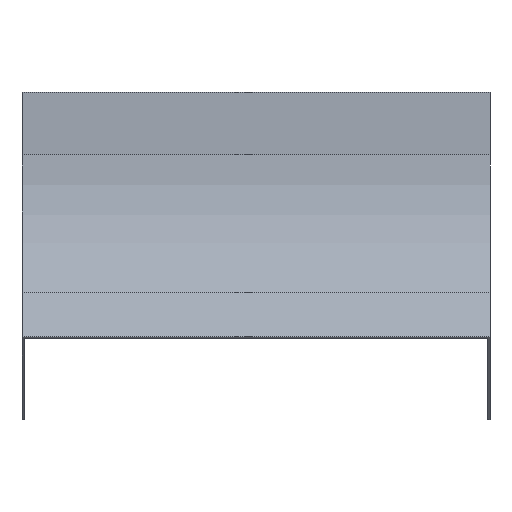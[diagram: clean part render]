
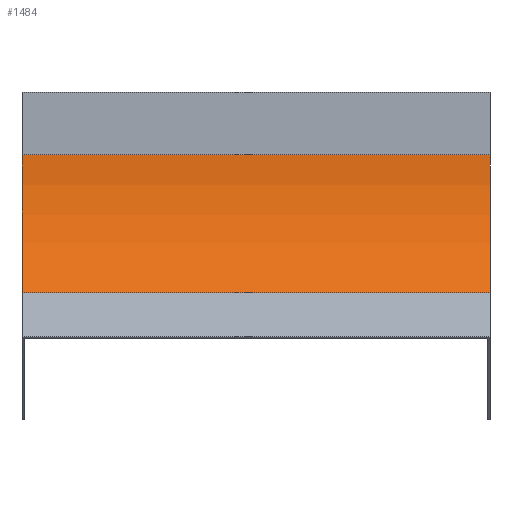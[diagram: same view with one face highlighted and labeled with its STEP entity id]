
A CAD part, front view. The second image highlights one B-rep face of the part: STEP entity #1484.
In plain terms, the highlighted cylindrical face has radius 125 mm (diameter 250 mm), a partial arc.
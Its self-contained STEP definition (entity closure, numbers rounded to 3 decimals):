
#35 = EDGE_CURVE ( 'NONE', #552, #1294, #234, .T. ) ;
#170 = AXIS2_PLACEMENT_3D ( 'NONE', #526, #1055, #604 ) ;
#196 = CIRCLE ( 'NONE', #1463, 125. ) ;
#209 = CARTESIAN_POINT ( 'NONE',  ( -150., 0., -40. ) ) ;
#213 = ORIENTED_EDGE ( 'NONE', *, *, #35, .F. ) ;
#231 = CYLINDRICAL_SURFACE ( 'NONE', #170, 125. ) ;
#234 = LINE ( 'NONE', #643, #1529 ) ;
#236 = ORIENTED_EDGE ( 'NONE', *, *, #1429, .F. ) ;
#245 = ORIENTED_EDGE ( 'NONE', *, *, #1259, .T. ) ;
#265 = DIRECTION ( 'NONE',  ( -1., 0., 0. ) ) ;
#375 = LINE ( 'NONE', #636, #1678 ) ;
#416 = CIRCLE ( 'NONE', #1434, 125. ) ;
#526 = CARTESIAN_POINT ( 'NONE',  ( 150., -125., -40. ) ) ;
#552 = VERTEX_POINT ( 'NONE', #1104 ) ;
#604 = DIRECTION ( 'NONE',  ( 0., 0., 1. ) ) ;
#620 = VERTEX_POINT ( 'NONE', #209 ) ;
#636 = CARTESIAN_POINT ( 'NONE',  ( 150., 0., -40. ) ) ;
#643 = CARTESIAN_POINT ( 'NONE',  ( 150., -36.612, -128.388 ) ) ;
#670 = CARTESIAN_POINT ( 'NONE',  ( -150., -36.612, -128.388 ) ) ;
#697 = ORIENTED_EDGE ( 'NONE', *, *, #1538, .T. ) ;
#712 = DIRECTION ( 'NONE',  ( 0., 0., 1. ) ) ;
#761 = CARTESIAN_POINT ( 'NONE',  ( -150., -125., -40. ) ) ;
#836 = CARTESIAN_POINT ( 'NONE',  ( 150., 0., -40. ) ) ;
#924 = DIRECTION ( 'NONE',  ( -1., 0., 0. ) ) ;
#947 = VERTEX_POINT ( 'NONE', #836 ) ;
#1055 = DIRECTION ( 'NONE',  ( -1., 0., 0. ) ) ;
#1098 = CARTESIAN_POINT ( 'NONE',  ( 150., -125., -40. ) ) ;
#1104 = CARTESIAN_POINT ( 'NONE',  ( 150., -36.612, -128.388 ) ) ;
#1259 = EDGE_CURVE ( 'NONE', #947, #620, #375, .T. ) ;
#1294 = VERTEX_POINT ( 'NONE', #670 ) ;
#1315 = FACE_OUTER_BOUND ( 'NONE', #1401, .T. ) ;
#1352 = DIRECTION ( 'NONE',  ( -1., 0., 0. ) ) ;
#1401 = EDGE_LOOP ( 'NONE', ( #697, #213, #236, #245 ) ) ;
#1427 = DIRECTION ( 'NONE',  ( 0., 0., 1. ) ) ;
#1429 = EDGE_CURVE ( 'NONE', #947, #552, #196, .T. ) ;
#1432 = DIRECTION ( 'NONE',  ( -1., 0., 0. ) ) ;
#1434 = AXIS2_PLACEMENT_3D ( 'NONE', #761, #924, #1427 ) ;
#1463 = AXIS2_PLACEMENT_3D ( 'NONE', #1098, #1352, #712 ) ;
#1484 = ADVANCED_FACE ( 'NONE', ( #1315 ), #231, .F. ) ;
#1529 = VECTOR ( 'NONE', #265, 1000. ) ;
#1538 = EDGE_CURVE ( 'NONE', #620, #1294, #416, .T. ) ;
#1678 = VECTOR ( 'NONE', #1432, 1000. ) ;
